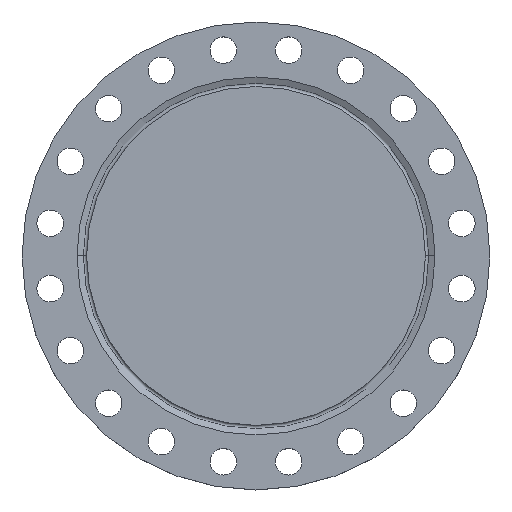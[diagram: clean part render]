
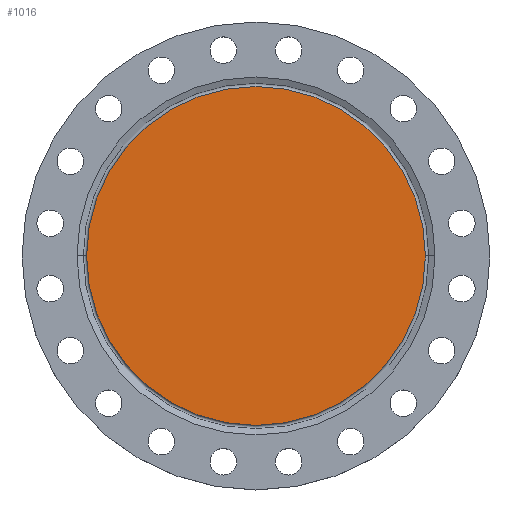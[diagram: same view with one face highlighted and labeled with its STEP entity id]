
A CAD part, top view. The second image highlights one B-rep face of the part: STEP entity #1016.
In plain terms, the highlighted planar face has unit normal (0, 0, 1).
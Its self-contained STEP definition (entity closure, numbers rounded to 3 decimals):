
#57 = PLANE ( 'NONE',  #1382 ) ;
#436 = EDGE_LOOP ( 'NONE', ( #733, #1268 ) ) ;
#650 = DIRECTION ( 'NONE',  ( 0., 0., -1. ) ) ;
#661 = DIRECTION ( 'NONE',  ( 0., 0., -1. ) ) ;
#733 = ORIENTED_EDGE ( 'NONE', *, *, #1461, .F. ) ;
#761 = CARTESIAN_POINT ( 'NONE',  ( 0., 0., 0. ) ) ;
#792 = EDGE_CURVE ( 'NONE', #793, #1147, #1052, .T. ) ;
#793 = VERTEX_POINT ( 'NONE', #1683 ) ;
#1016 = ADVANCED_FACE ( 'NONE', ( #1405 ), #57, .T. ) ;
#1052 = CIRCLE ( 'NONE', #1265, 248. ) ;
#1147 = VERTEX_POINT ( 'NONE', #1221 ) ;
#1198 = DIRECTION ( 'NONE',  ( -1., 0., 0. ) ) ;
#1208 = DIRECTION ( 'NONE',  ( -1., 0., 0. ) ) ;
#1210 = CIRCLE ( 'NONE', #1218, 248. ) ;
#1218 = AXIS2_PLACEMENT_3D ( 'NONE', #1763, #650, #1198 ) ;
#1221 = CARTESIAN_POINT ( 'NONE',  ( -248., 0., 0. ) ) ;
#1265 = AXIS2_PLACEMENT_3D ( 'NONE', #1774, #661, #1208 ) ;
#1268 = ORIENTED_EDGE ( 'NONE', *, *, #792, .F. ) ;
#1289 = DIRECTION ( 'NONE',  ( 0., 0., 1. ) ) ;
#1382 = AXIS2_PLACEMENT_3D ( 'NONE', #761, #1289, #1755 ) ;
#1405 = FACE_OUTER_BOUND ( 'NONE', #436, .T. ) ;
#1461 = EDGE_CURVE ( 'NONE', #1147, #793, #1210, .T. ) ;
#1683 = CARTESIAN_POINT ( 'NONE',  ( 248., 0., 0. ) ) ;
#1755 = DIRECTION ( 'NONE',  ( 1., 0., 0. ) ) ;
#1763 = CARTESIAN_POINT ( 'NONE',  ( 0., 0., 0. ) ) ;
#1774 = CARTESIAN_POINT ( 'NONE',  ( 0., 0., 0. ) ) ;
